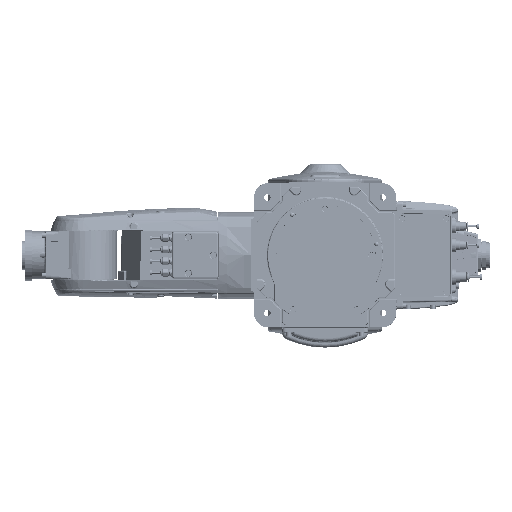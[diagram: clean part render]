
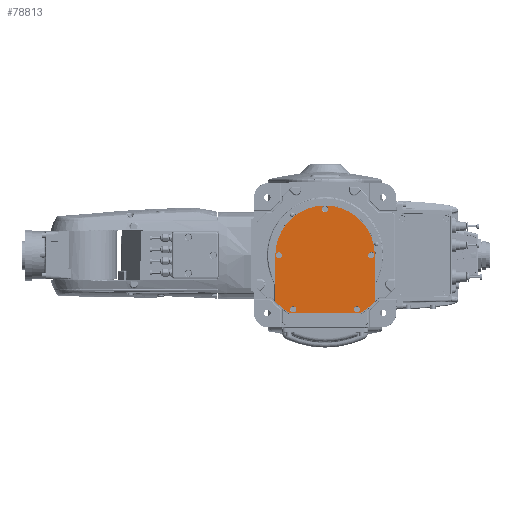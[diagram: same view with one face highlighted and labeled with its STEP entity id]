
A CAD part, front view. The second image highlights one B-rep face of the part: STEP entity #78813.
In plain terms, the highlighted planar face has unit normal (0, -1, 0).
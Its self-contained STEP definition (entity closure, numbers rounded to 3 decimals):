
#29969=DIRECTION('',(0.,0.,1.));
#29970=VECTOR('',#29969,63.836);
#29971=CARTESIAN_POINT('',(69.,1.2,-63.836));
#29972=LINE('',#29971,#29970);
#29985=DIRECTION('',(1.,0.,0.));
#29986=VECTOR('',#29985,98.712);
#29987=CARTESIAN_POINT('',(-49.356,1.2,-80.));
#29988=LINE('',#29987,#29986);
#30001=DIRECTION('',(0.,0.,-1.));
#30002=VECTOR('',#30001,63.836);
#30003=CARTESIAN_POINT('',(-69.,1.2,0.));
#30004=LINE('',#30003,#30002);
#30005=CARTESIAN_POINT('',(0.,1.2,0.));
#30006=DIRECTION('',(0.,1.,0.));
#30007=DIRECTION('',(-1.,0.,0.));
#30008=AXIS2_PLACEMENT_3D('',#30005,#30006,#30007);
#30010=CARTESIAN_POINT('',(0.,1.2,0.));
#30011=DIRECTION('',(0.,1.,0.));
#30012=DIRECTION('',(0.734,0.,-0.679));
#30013=AXIS2_PLACEMENT_3D('',#30010,#30011,#30012);
#30015=CARTESIAN_POINT('',(0.,1.2,0.));
#30016=DIRECTION('',(0.,1.,0.));
#30017=DIRECTION('',(-0.525,0.,-0.851));
#30018=AXIS2_PLACEMENT_3D('',#30015,#30016,#30017);
#30020=CARTESIAN_POINT('',(-64.,1.2,0.));
#30021=DIRECTION('',(0.,-1.,0.));
#30022=DIRECTION('',(-1.,0.,0.));
#30023=AXIS2_PLACEMENT_3D('',#30020,#30021,#30022);
#30025=CARTESIAN_POINT('',(-64.,1.2,0.));
#30026=DIRECTION('',(0.,-1.,0.));
#30027=DIRECTION('',(1.,0.,0.));
#30028=AXIS2_PLACEMENT_3D('',#30025,#30026,#30027);
#30030=CARTESIAN_POINT('',(0.,1.2,64.));
#30031=DIRECTION('',(0.,-1.,0.));
#30032=DIRECTION('',(0.,0.,1.));
#30033=AXIS2_PLACEMENT_3D('',#30030,#30031,#30032);
#30035=CARTESIAN_POINT('',(0.,1.2,64.));
#30036=DIRECTION('',(0.,-1.,0.));
#30037=DIRECTION('',(0.,0.,-1.));
#30038=AXIS2_PLACEMENT_3D('',#30035,#30036,#30037);
#30040=CARTESIAN_POINT('',(64.,1.2,0.));
#30041=DIRECTION('',(0.,-1.,0.));
#30042=DIRECTION('',(1.,0.,0.));
#30043=AXIS2_PLACEMENT_3D('',#30040,#30041,#30042);
#30045=CARTESIAN_POINT('',(64.,1.2,0.));
#30046=DIRECTION('',(0.,-1.,0.));
#30047=DIRECTION('',(-1.,0.,0.));
#30048=AXIS2_PLACEMENT_3D('',#30045,#30046,#30047);
#30050=CARTESIAN_POINT('',(-44.,1.2,-75.));
#30051=DIRECTION('',(0.,-1.,0.));
#30052=DIRECTION('',(-1.,0.,0.));
#30053=AXIS2_PLACEMENT_3D('',#30050,#30051,#30052);
#30055=CARTESIAN_POINT('',(-44.,1.2,-75.));
#30056=DIRECTION('',(0.,-1.,0.));
#30057=DIRECTION('',(1.,0.,0.));
#30058=AXIS2_PLACEMENT_3D('',#30055,#30056,#30057);
#30060=CARTESIAN_POINT('',(44.,1.2,-75.));
#30061=DIRECTION('',(0.,-1.,0.));
#30062=DIRECTION('',(-1.,0.,0.));
#30063=AXIS2_PLACEMENT_3D('',#30060,#30061,#30062);
#30065=CARTESIAN_POINT('',(44.,1.2,-75.));
#30066=DIRECTION('',(0.,-1.,0.));
#30067=DIRECTION('',(1.,0.,0.));
#30068=AXIS2_PLACEMENT_3D('',#30065,#30066,#30067);
#34717=CARTESIAN_POINT('',(69.,1.2,0.));
#34718=VERTEX_POINT('',#34717);
#34719=CARTESIAN_POINT('',(-69.,1.2,0.));
#34720=VERTEX_POINT('',#34719);
#34721=CARTESIAN_POINT('',(69.,1.2,-63.836));
#34722=VERTEX_POINT('',#34721);
#34723=CARTESIAN_POINT('',(49.356,1.2,-80.));
#34724=VERTEX_POINT('',#34723);
#34725=CARTESIAN_POINT('',(-49.356,1.2,-80.));
#34726=VERTEX_POINT('',#34725);
#34727=CARTESIAN_POINT('',(-69.,1.2,-63.836));
#34728=VERTEX_POINT('',#34727);
#34729=CARTESIAN_POINT('',(-68.3,1.2,0.));
#34730=CARTESIAN_POINT('',(-59.7,1.2,0.));
#34731=VERTEX_POINT('',#34729);
#34732=VERTEX_POINT('',#34730);
#34733=CARTESIAN_POINT('',(0.,1.2,68.3));
#34734=CARTESIAN_POINT('',(0.,1.2,59.7));
#34735=VERTEX_POINT('',#34733);
#34736=VERTEX_POINT('',#34734);
#34737=CARTESIAN_POINT('',(68.3,1.2,0.));
#34738=CARTESIAN_POINT('',(59.7,1.2,0.));
#34739=VERTEX_POINT('',#34737);
#34740=VERTEX_POINT('',#34738);
#34741=CARTESIAN_POINT('',(-48.3,1.2,-75.));
#34742=CARTESIAN_POINT('',(-39.7,1.2,-75.));
#34743=VERTEX_POINT('',#34741);
#34744=VERTEX_POINT('',#34742);
#34745=CARTESIAN_POINT('',(39.7,1.2,-75.));
#34746=CARTESIAN_POINT('',(48.3,1.2,-75.));
#34747=VERTEX_POINT('',#34745);
#34748=VERTEX_POINT('',#34746);
#78770=CARTESIAN_POINT('',(0.,1.2,-5.499));
#78771=DIRECTION('',(0.,1.,0.));
#78772=DIRECTION('',(1.,0.,0.));
#78773=AXIS2_PLACEMENT_3D('',#78770,#78771,#78772);
#78774=PLANE('',#78773);
#78775=ORIENTED_EDGE('',*,*,#78694,.T.);
#78776=ORIENTED_EDGE('',*,*,#78709,.F.);
#78777=ORIENTED_EDGE('',*,*,#78723,.T.);
#78778=ORIENTED_EDGE('',*,*,#78737,.F.);
#78779=ORIENTED_EDGE('',*,*,#78751,.T.);
#78780=ORIENTED_EDGE('',*,*,#78764,.F.);
#78781=EDGE_LOOP('',(#78775,#78776,#78777,#78778,#78779,#78780));
#78782=FACE_OUTER_BOUND('',#78781,.F.);
#78784=ORIENTED_EDGE('',*,*,#78783,.T.);
#78786=ORIENTED_EDGE('',*,*,#78785,.T.);
#78787=EDGE_LOOP('',(#78784,#78786));
#78788=FACE_BOUND('',#78787,.F.);
#78790=ORIENTED_EDGE('',*,*,#78789,.T.);
#78792=ORIENTED_EDGE('',*,*,#78791,.T.);
#78793=EDGE_LOOP('',(#78790,#78792));
#78794=FACE_BOUND('',#78793,.F.);
#78796=ORIENTED_EDGE('',*,*,#78795,.T.);
#78798=ORIENTED_EDGE('',*,*,#78797,.T.);
#78799=EDGE_LOOP('',(#78796,#78798));
#78800=FACE_BOUND('',#78799,.F.);
#78802=ORIENTED_EDGE('',*,*,#78801,.T.);
#78804=ORIENTED_EDGE('',*,*,#78803,.T.);
#78805=EDGE_LOOP('',(#78802,#78804));
#78806=FACE_BOUND('',#78805,.F.);
#78808=ORIENTED_EDGE('',*,*,#78807,.T.);
#78810=ORIENTED_EDGE('',*,*,#78809,.T.);
#78811=EDGE_LOOP('',(#78808,#78810));
#78812=FACE_BOUND('',#78811,.F.);
#78813=ADVANCED_FACE('',(#78782,#78788,#78794,#78800,#78806,#78812),#78774,.F.);
#30009=CIRCLE('',#30008,69.);
#30014=CIRCLE('',#30013,94.);
#30019=CIRCLE('',#30018,94.);
#30024=CIRCLE('',#30023,4.3);
#30029=CIRCLE('',#30028,4.3);
#30034=CIRCLE('',#30033,4.3);
#30039=CIRCLE('',#30038,4.3);
#30044=CIRCLE('',#30043,4.3);
#30049=CIRCLE('',#30048,4.3);
#30054=CIRCLE('',#30053,4.3);
#30059=CIRCLE('',#30058,4.3);
#30064=CIRCLE('',#30063,4.3);
#30069=CIRCLE('',#30068,4.3);
#78694=EDGE_CURVE('',#34720,#34718,#30009,.T.);
#78709=EDGE_CURVE('',#34722,#34718,#29972,.T.);
#78723=EDGE_CURVE('',#34722,#34724,#30014,.T.);
#78737=EDGE_CURVE('',#34726,#34724,#29988,.T.);
#78751=EDGE_CURVE('',#34726,#34728,#30019,.T.);
#78764=EDGE_CURVE('',#34720,#34728,#30004,.T.);
#78783=EDGE_CURVE('',#34731,#34732,#30024,.T.);
#78785=EDGE_CURVE('',#34732,#34731,#30029,.T.);
#78789=EDGE_CURVE('',#34735,#34736,#30034,.T.);
#78791=EDGE_CURVE('',#34736,#34735,#30039,.T.);
#78795=EDGE_CURVE('',#34739,#34740,#30044,.T.);
#78797=EDGE_CURVE('',#34740,#34739,#30049,.T.);
#78801=EDGE_CURVE('',#34743,#34744,#30054,.T.);
#78803=EDGE_CURVE('',#34744,#34743,#30059,.T.);
#78807=EDGE_CURVE('',#34747,#34748,#30064,.T.);
#78809=EDGE_CURVE('',#34748,#34747,#30069,.T.);
